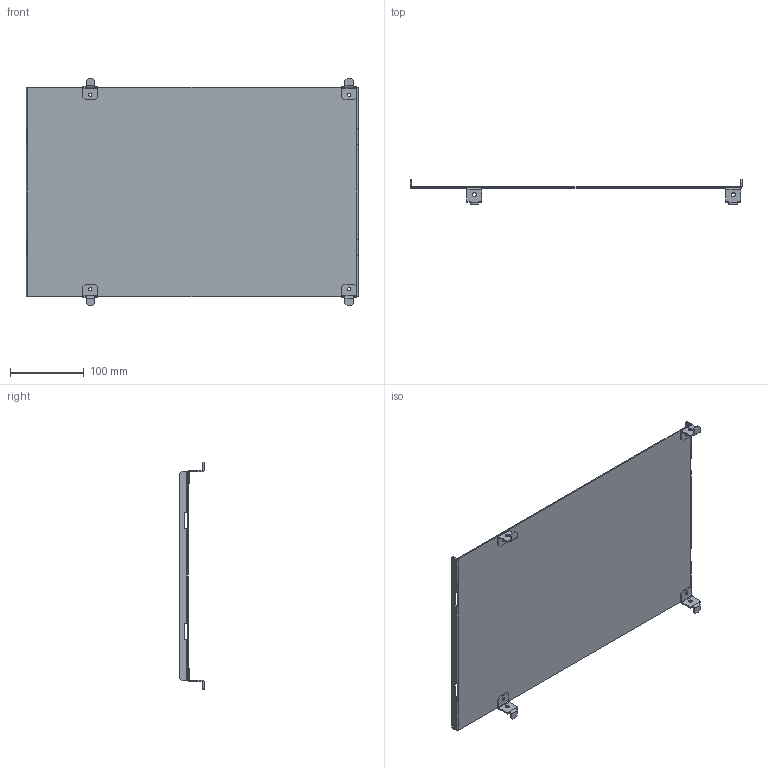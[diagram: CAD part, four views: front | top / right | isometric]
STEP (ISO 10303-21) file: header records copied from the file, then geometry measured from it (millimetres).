
FILE_DESCRIPTION(('CAx-IF Rec.Pracs.---Model Styling and Organization---1.2---2011-12-15','CAx-IF Rec.Pracs.---Geometric and Assembly Validation Properties---4.1---2014-06-16','CAx-IF Rec.Pracs.---PMI Polyline Presentation---2.0---2013-05-24'),'2;1');
FILE_NAME('R5SWM454.stp','2021-05-06T03:10:44+03:00',(''),(''),'STEP Interface 4.4 by CT CoreTechnologie','3D_Evolution4.4 by CT CoreTechnologie','');
FILE_SCHEMA(('AUTOMOTIVE_DESIGN { 1 0 10303 214 1 1 1 1 }'));
Length unit declared in the file: millimetre
Products named in the file (3): R5SWM454; RB.0520.00.00.0; RB.0904.00.00.0_-00 450å400
Assembly tree (5 placements, depth 2):
  R5SWM454
    RB.0520.00.00.0  x4
    RB.0904.00.00.0_-00 450å400
Bounding box: 449 x 33.5 x 308 mm (x, y, z)
Surface area: 274594.5 mm2 (no closed solid volume)
Topology: 0 solids, 5 shells, 176 faces, 534 edges, 360 vertices
Faces by surface type: plane 120, cylinder 56
Entity records: 3504 total; most frequent: CARTESIAN_POINT 590, ORIENTED_EDGE 588, DIRECTION 566, EDGE_CURVE 294, VECTOR 230, LINE 230, VERTEX_POINT 192, AXIS2_PLACEMENT_3D 168
